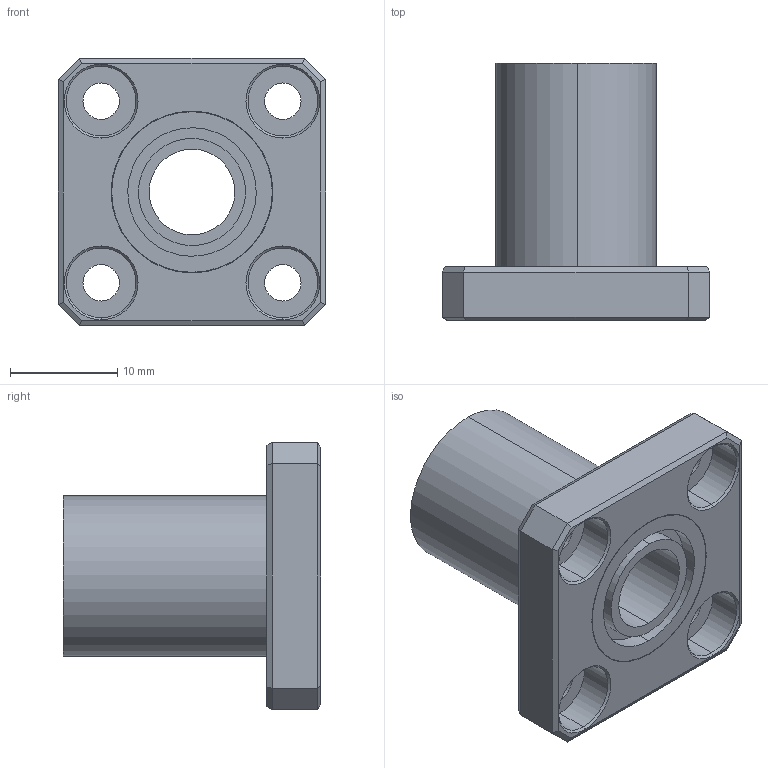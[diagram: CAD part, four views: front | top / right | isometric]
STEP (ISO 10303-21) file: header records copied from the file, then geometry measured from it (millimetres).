
FILE_DESCRIPTION (( 'STEP AP214' ), '1' );
FILE_NAME ('LMK8UU.STEP', '2020-06-29T11:39:50', ( '' ), ( '' ), 'SwSTEP 2.0', 'SolidWorks 2018', '' );
FILE_SCHEMA (( 'AUTOMOTIVE_DESIGN' ));
Length unit declared in the file: millimetre
Products named in the file (3): LMK8UU Part2; LMK8UU; LMK8UU Part1
Assembly tree (2 placements, depth 2):
  LMK8UU
    LMK8UU Part1
    LMK8UU Part2
Bounding box: 25 x 24 x 25 mm (x, y, z)
Volume: 4562.4 mm3; surface area: 3926 mm2
Topology: 2 solids, 2 shells, 84 faces, 182 edges, 110 vertices
Faces by surface type: plane 36, cylinder 30, cone 18
Entity records: 2604 total; most frequent: DIRECTION 438, CARTESIAN_POINT 381, ORIENTED_EDGE 364, EDGE_CURVE 182, AXIS2_PLACEMENT_3D 167, VERTEX_POINT 110, VECTOR 104, LINE 104
